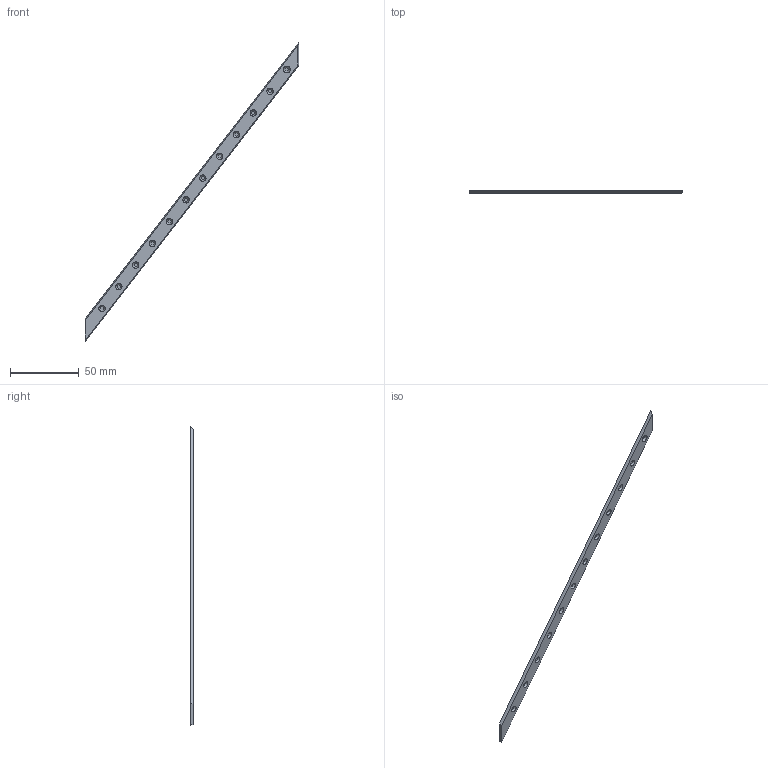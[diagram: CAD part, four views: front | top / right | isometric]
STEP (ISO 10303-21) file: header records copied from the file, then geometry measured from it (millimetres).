
FILE_DESCRIPTION(('STEP AP242 Edition 2','STEP AP242 Edition 2''CAx-IF Rec.Pracs.---Representation and Presentation of Product Manufacturing Information (PMI)---4.0---2014-10-13','STEP AP242 Edition 2''CAx-IF Rec.Pracs.---Representation and Presentation of Product Manufacturing Information (PMI)---4.0---2014-10-13''CAx-IF Rec.Pracs.---3D Tessellated Geometry---0.4---2014-09-14','STEP AP242 Edition 2''CAx-IF Rec.Pracs.---Representation and Presentation of Product Manufacturing Information (PMI)---4.0---2014-10-13''CAx-IF Rec.Pracs.---3D Tessellated Geometry---0.4---2014-09-14''2;1','STEP AP242 Edition 2''CAx-IF Rec.Pracs.---Representation and Presentation of Product Manufacturing Information (PMI)---4.0---2014-10-13''CAx-IF Rec.Pracs.---3D Tessellated Geometry---0.4---2014-09-14''2;1''CAx-IF Rec.Pracs.---User Defined Attributes---1.5---2016-08-15'),'2;1');
FILE_NAME('/vol/tmp/translate-5928582753522486027/Part Studio Body Front - Part Grill Left Logo Bottom - Chrome.step','2026-05-02T13:02:45',(''),(''),'ST-DEVELOPER v20','ONSHAPE BY PTC INC, 1.214',' ');
FILE_SCHEMA(('AP242_MANAGED_MODEL_BASED_3D_ENGINEERING_MIM_LF { 1 0 10303 442 3 1 4 }'));
Length unit declared in the file: metre
Products named in the file (1): Part Grill Left Logo Bottom - Chrome
Bounding box: 155.83 x 2.5 x 218.28 mm (x, y, z)
Volume: 5116.7 mm3; surface area: 6259.1 mm2
Topology: 1 solids, 1 shells, 33 faces, 57 edges, 38 vertices
Faces by surface type: plane 20, cone 12, cylinder 1
Full cylindrical faces by diameter (mm): 5 x1
Entity records: 744 total; most frequent: DIRECTION 136, CARTESIAN_POINT 114, ORIENTED_EDGE 86, AXIS2_PLACEMENT_3D 59, EDGE_LOOP 58, FACE_BOUND 58, EDGE_CURVE 43, VERTEX_POINT 37
